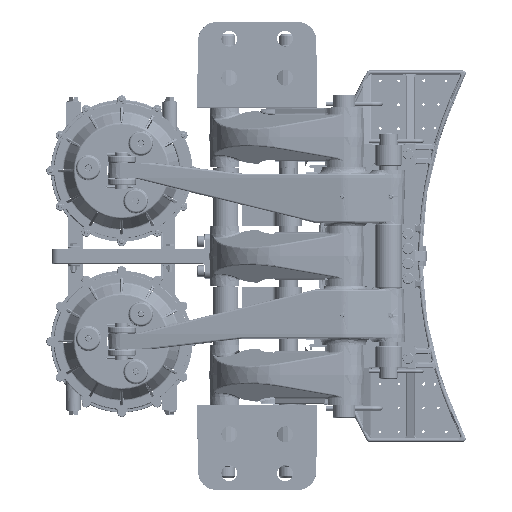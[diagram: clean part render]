
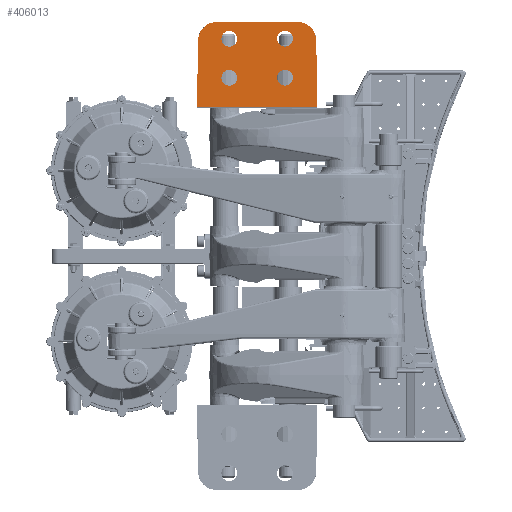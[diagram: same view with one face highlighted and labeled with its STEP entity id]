
A CAD part, top view. The second image highlights one B-rep face of the part: STEP entity #406013.
In plain terms, the highlighted planar face has unit normal (0, 0, 1).
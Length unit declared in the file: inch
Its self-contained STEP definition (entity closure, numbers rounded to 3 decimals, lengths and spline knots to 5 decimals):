
#3415 = EDGE_CURVE ( 'NONE', #115696, #354884, #204804, .T. ) ;
#5428 = CARTESIAN_POINT ( 'NONE',  ( -6.50114, 14.625, 8.375 ) ) ;
#11385 = VECTOR ( 'NONE', #326452, 39.37008 ) ;
#12073 = VERTEX_POINT ( 'NONE', #331314 ) ;
#12348 = VERTEX_POINT ( 'NONE', #362642 ) ;
#14016 = AXIS2_PLACEMENT_3D ( 'NONE', #422546, #199213, #420154 ) ;
#18431 = EDGE_CURVE ( 'NONE', #211695, #167766, #223294, .T. ) ;
#19377 = AXIS2_PLACEMENT_3D ( 'NONE', #327184, #138181, #175013 ) ;
#20109 = ORIENTED_EDGE ( 'NONE', *, *, #302092, .T. ) ;
#23414 = VERTEX_POINT ( 'NONE', #5428 ) ;
#24453 = CARTESIAN_POINT ( 'NONE',  ( -8.15489, 10., 8.375 ) ) ;
#26964 = CIRCLE ( 'NONE', #89952, 0.53125 ) ;
#27640 = FACE_BOUND ( 'NONE', #61273, .T. ) ;
#42875 = DIRECTION ( 'NONE',  ( 0., 0., -1. ) ) ;
#53531 = ORIENTED_EDGE ( 'NONE', *, *, #307103, .T. ) ;
#59547 = AXIS2_PLACEMENT_3D ( 'NONE', #252185, #362592, #286630 ) ;
#59965 = AXIS2_PLACEMENT_3D ( 'NONE', #315851, #129225, #274210 ) ;
#61273 = EDGE_LOOP ( 'NONE', ( #404238, #198826 ) ) ;
#61373 = AXIS2_PLACEMENT_3D ( 'NONE', #377346, #458278, #384638 ) ;
#61857 = CARTESIAN_POINT ( 'NONE',  ( -0.03489, 9.8125, 8.375 ) ) ;
#81951 = EDGE_CURVE ( 'NONE', #23414, #12348, #441602, .T. ) ;
#89952 = AXIS2_PLACEMENT_3D ( 'NONE', #435736, #99429, #315601 ) ;
#92042 = CARTESIAN_POINT ( 'NONE',  ( -2.21989, 14.625, 8.375 ) ) ;
#92280 = CARTESIAN_POINT ( 'NONE',  ( -8.07264, 14.52491, 8.375 ) ) ;
#99429 = DIRECTION ( 'NONE',  ( 0., 0., -1. ) ) ;
#110685 = CARTESIAN_POINT ( 'NONE',  ( -6.50114, 12., 8.375 ) ) ;
#115064 = EDGE_LOOP ( 'NONE', ( #276966, #459171 ) ) ;
#115671 = CIRCLE ( 'NONE', #14016, 0.53125 ) ;
#115696 = VERTEX_POINT ( 'NONE', #313284 ) ;
#119943 = AXIS2_PLACEMENT_3D ( 'NONE', #439459, #321720, #174358 ) ;
#120286 = VECTOR ( 'NONE', #174735, 39.37008 ) ;
#122683 = CARTESIAN_POINT ( 'NONE',  ( -6.82283, 14.50309, 8.375 ) ) ;
#126041 = CIRCLE ( 'NONE', #400433, 0.53125 ) ;
#126228 = AXIS2_PLACEMENT_3D ( 'NONE', #446185, #146721, #480501 ) ;
#129225 = DIRECTION ( 'NONE',  ( 0., 0., -1. ) ) ;
#130193 = CARTESIAN_POINT ( 'NONE',  ( -6.82283, 15.75309, 8.375 ) ) ;
#130431 = DIRECTION ( 'NONE',  ( 0., -1., 0. ) ) ;
#138181 = DIRECTION ( 'NONE',  ( 0., 0., 1. ) ) ;
#143274 = CARTESIAN_POINT ( 'NONE',  ( -2.75114, 14.625, 8.375 ) ) ;
#146721 = DIRECTION ( 'NONE',  ( 0., 0., -1. ) ) ;
#167766 = VERTEX_POINT ( 'NONE', #143274 ) ;
#174358 = DIRECTION ( 'NONE',  ( 0., -1., 0. ) ) ;
#174467 = AXIS2_PLACEMENT_3D ( 'NONE', #122683, #198887, #417419 ) ;
#174735 = DIRECTION ( 'NONE',  ( -0.017, 1., 0. ) ) ;
#175013 = DIRECTION ( 'NONE',  ( 0., -1., 0. ) ) ;
#176145 = AXIS2_PLACEMENT_3D ( 'NONE', #92042, #467361, #241775 ) ;
#177303 = CIRCLE ( 'NONE', #59965, 0.53125 ) ;
#179330 = CARTESIAN_POINT ( 'NONE',  ( -1.68864, 14.625, 8.375 ) ) ;
#187830 = ORIENTED_EDGE ( 'NONE', *, *, #470715, .T. ) ;
#198826 = ORIENTED_EDGE ( 'NONE', *, *, #458156, .T. ) ;
#198887 = DIRECTION ( 'NONE',  ( 0., 0., -1. ) ) ;
#199213 = DIRECTION ( 'NONE',  ( 0., 0., -1. ) ) ;
#200488 = LINE ( 'NONE', #281345, #282749 ) ;
#202798 = CARTESIAN_POINT ( 'NONE',  ( -0.11715, 14.52491, 8.375 ) ) ;
#204804 = CIRCLE ( 'NONE', #126228, 1.25 ) ;
#211695 = VERTEX_POINT ( 'NONE', #179330 ) ;
#214381 = FACE_BOUND ( 'NONE', #115064, .T. ) ;
#223294 = CIRCLE ( 'NONE', #176145, 0.53125 ) ;
#224089 = PLANE ( 'NONE',  #19377 ) ;
#239881 = ORIENTED_EDGE ( 'NONE', *, *, #81951, .T. ) ;
#241775 = DIRECTION ( 'NONE',  ( 0., -1., 0. ) ) ;
#243150 = CARTESIAN_POINT ( 'NONE',  ( -0.03816, 10., 8.375 ) ) ;
#243680 = LINE ( 'NONE', #61857, #120286 ) ;
#252185 = CARTESIAN_POINT ( 'NONE',  ( -2.21989, 12., 8.375 ) ) ;
#254429 = EDGE_LOOP ( 'NONE', ( #337668, #456846, #393370, #260777, #20109, #187830 ) ) ;
#260777 = ORIENTED_EDGE ( 'NONE', *, *, #421119, .F. ) ;
#261235 = VERTEX_POINT ( 'NONE', #92280 ) ;
#269756 = CARTESIAN_POINT ( 'NONE',  ( -1.68864, 12., 8.375 ) ) ;
#274210 = DIRECTION ( 'NONE',  ( 0., -1., 0. ) ) ;
#276966 = ORIENTED_EDGE ( 'NONE', *, *, #437087, .T. ) ;
#281345 = CARTESIAN_POINT ( 'NONE',  ( -8.15489, 15.75309, 8.375 ) ) ;
#282749 = VECTOR ( 'NONE', #350132, 39.37008 ) ;
#286630 = DIRECTION ( 'NONE',  ( 0., -1., 0. ) ) ;
#290495 = VERTEX_POINT ( 'NONE', #130193 ) ;
#292814 = FACE_BOUND ( 'NONE', #297241, .T. ) ;
#297016 = EDGE_CURVE ( 'NONE', #290495, #115696, #200488, .T. ) ;
#297241 = EDGE_LOOP ( 'NONE', ( #404827, #239881 ) ) ;
#297596 = VERTEX_POINT ( 'NONE', #341103 ) ;
#301900 = VERTEX_POINT ( 'NONE', #243150 ) ;
#302092 = EDGE_CURVE ( 'NONE', #261235, #314471, #343324, .T. ) ;
#306088 = EDGE_CURVE ( 'NONE', #301900, #354884, #243680, .T. ) ;
#307103 = EDGE_CURVE ( 'NONE', #167766, #211695, #26964, .T. ) ;
#313284 = CARTESIAN_POINT ( 'NONE',  ( -1.36696, 15.75309, 8.375 ) ) ;
#314471 = VERTEX_POINT ( 'NONE', #456426 ) ;
#315601 = DIRECTION ( 'NONE',  ( 0., -1., 0. ) ) ;
#315851 = CARTESIAN_POINT ( 'NONE',  ( -2.21989, 12., 8.375 ) ) ;
#321720 = DIRECTION ( 'NONE',  ( 0., 0., -1. ) ) ;
#326452 = DIRECTION ( 'NONE',  ( 1., 0., 0. ) ) ;
#327184 = CARTESIAN_POINT ( 'NONE',  ( -8.15489, 17., 8.375 ) ) ;
#327692 = CIRCLE ( 'NONE', #61373, 0.53125 ) ;
#331314 = CARTESIAN_POINT ( 'NONE',  ( -5.43864, 12., 8.375 ) ) ;
#337614 = EDGE_CURVE ( 'NONE', #12348, #23414, #126041, .T. ) ;
#337668 = ORIENTED_EDGE ( 'NONE', *, *, #306088, .T. ) ;
#338565 = VERTEX_POINT ( 'NONE', #110685 ) ;
#341103 = CARTESIAN_POINT ( 'NONE',  ( -2.75114, 12., 8.375 ) ) ;
#343324 = LINE ( 'NONE', #446482, #376484 ) ;
#350132 = DIRECTION ( 'NONE',  ( 1., 0., 0. ) ) ;
#354884 = VERTEX_POINT ( 'NONE', #202798 ) ;
#362592 = DIRECTION ( 'NONE',  ( 0., 0., -1. ) ) ;
#362642 = CARTESIAN_POINT ( 'NONE',  ( -5.43864, 14.625, 8.375 ) ) ;
#370728 = CIRCLE ( 'NONE', #174467, 1.25 ) ;
#373642 = FACE_BOUND ( 'NONE', #439775, .T. ) ;
#376484 = VECTOR ( 'NONE', #483225, 39.37008 ) ;
#377346 = CARTESIAN_POINT ( 'NONE',  ( -5.96989, 12., 8.375 ) ) ;
#378110 = VERTEX_POINT ( 'NONE', #269756 ) ;
#380957 = ORIENTED_EDGE ( 'NONE', *, *, #18431, .T. ) ;
#384638 = DIRECTION ( 'NONE',  ( 0., -1., 0. ) ) ;
#393370 = ORIENTED_EDGE ( 'NONE', *, *, #297016, .F. ) ;
#395255 = LINE ( 'NONE', #24453, #11385 ) ;
#400433 = AXIS2_PLACEMENT_3D ( 'NONE', #425115, #42875, #130431 ) ;
#404238 = ORIENTED_EDGE ( 'NONE', *, *, #432714, .T. ) ;
#404827 = ORIENTED_EDGE ( 'NONE', *, *, #337614, .T. ) ;
#406013 = ADVANCED_FACE ( 'NONE', ( #373642, #292814, #214381, #27640, #442522 ), #224089, .T. ) ;
#417419 = DIRECTION ( 'NONE',  ( 0., -1., 0. ) ) ;
#420154 = DIRECTION ( 'NONE',  ( 0., -1., 0. ) ) ;
#420221 = CIRCLE ( 'NONE', #59547, 0.53125 ) ;
#421119 = EDGE_CURVE ( 'NONE', #261235, #290495, #370728, .T. ) ;
#422546 = CARTESIAN_POINT ( 'NONE',  ( -5.96989, 12., 8.375 ) ) ;
#425115 = CARTESIAN_POINT ( 'NONE',  ( -5.96989, 14.625, 8.375 ) ) ;
#432714 = EDGE_CURVE ( 'NONE', #378110, #297596, #177303, .T. ) ;
#435736 = CARTESIAN_POINT ( 'NONE',  ( -2.21989, 14.625, 8.375 ) ) ;
#437087 = EDGE_CURVE ( 'NONE', #12073, #338565, #115671, .T. ) ;
#437494 = EDGE_CURVE ( 'NONE', #338565, #12073, #327692, .T. ) ;
#439459 = CARTESIAN_POINT ( 'NONE',  ( -5.96989, 14.625, 8.375 ) ) ;
#439775 = EDGE_LOOP ( 'NONE', ( #380957, #53531 ) ) ;
#441602 = CIRCLE ( 'NONE', #119943, 0.53125 ) ;
#442522 = FACE_OUTER_BOUND ( 'NONE', #254429, .T. ) ;
#446185 = CARTESIAN_POINT ( 'NONE',  ( -1.36696, 14.50309, 8.375 ) ) ;
#446482 = CARTESIAN_POINT ( 'NONE',  ( -8.15489, 9.8125, 8.375 ) ) ;
#456426 = CARTESIAN_POINT ( 'NONE',  ( -8.15162, 10., 8.375 ) ) ;
#456846 = ORIENTED_EDGE ( 'NONE', *, *, #3415, .F. ) ;
#458156 = EDGE_CURVE ( 'NONE', #297596, #378110, #420221, .T. ) ;
#458278 = DIRECTION ( 'NONE',  ( 0., 0., -1. ) ) ;
#459171 = ORIENTED_EDGE ( 'NONE', *, *, #437494, .T. ) ;
#467361 = DIRECTION ( 'NONE',  ( 0., 0., -1. ) ) ;
#470715 = EDGE_CURVE ( 'NONE', #314471, #301900, #395255, .T. ) ;
#480501 = DIRECTION ( 'NONE',  ( 0., -1., 0. ) ) ;
#483225 = DIRECTION ( 'NONE',  ( -0.017, -1., 0. ) ) ;
